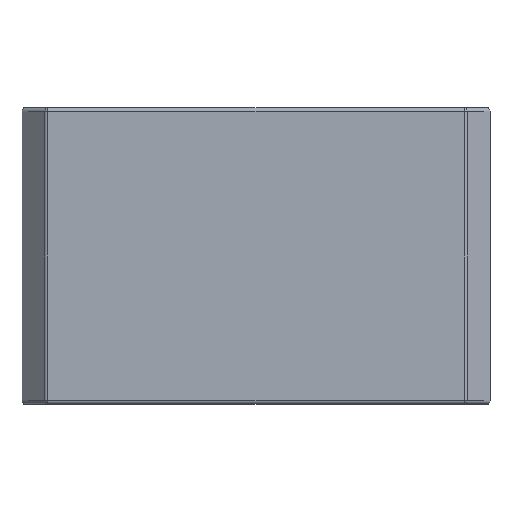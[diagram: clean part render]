
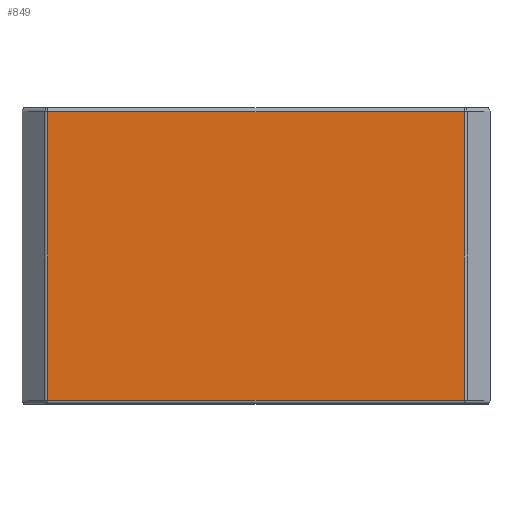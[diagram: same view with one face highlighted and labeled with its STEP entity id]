
A CAD part, front view. The second image highlights one B-rep face of the part: STEP entity #849.
In plain terms, the highlighted planar face has unit normal (0, -1, 0).
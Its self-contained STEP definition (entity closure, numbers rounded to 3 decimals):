
#2 = DIRECTION ( 'NONE',  ( -1., 0., 0. ) ) ;
#118 = DIRECTION ( 'NONE',  ( 0., 0., 1. ) ) ;
#147 = VERTEX_POINT ( 'NONE', #2136 ) ;
#235 = DIRECTION ( 'NONE',  ( 1., 0., 0. ) ) ;
#316 = EDGE_CURVE ( 'NONE', #1788, #147, #936, .T. ) ;
#390 = CARTESIAN_POINT ( 'NONE',  ( 56.913, 1.793, 74. ) ) ;
#595 = ORIENTED_EDGE ( 'NONE', *, *, #1159, .T. ) ;
#699 = VECTOR ( 'NONE', #1815, 1000. ) ;
#722 = LINE ( 'NONE', #1463, #699 ) ;
#849 = ADVANCED_FACE ( 'NONE', ( #1826 ), #1649, .F. ) ;
#863 = EDGE_CURVE ( 'NONE', #1921, #1788, #722, .T. ) ;
#936 = LINE ( 'NONE', #1315, #1042 ) ;
#978 = CARTESIAN_POINT ( 'NONE',  ( -43.572, 1.793, 1. ) ) ;
#1042 = VECTOR ( 'NONE', #235, 1000. ) ;
#1159 = EDGE_CURVE ( 'NONE', #147, #2350, #1193, .T. ) ;
#1193 = LINE ( 'NONE', #1217, #1802 ) ;
#1217 = CARTESIAN_POINT ( 'NONE',  ( 60.399, 1.793, 74. ) ) ;
#1236 = LINE ( 'NONE', #2107, #2235 ) ;
#1265 = CARTESIAN_POINT ( 'NONE',  ( -43.572, 1.793, 73. ) ) ;
#1315 = CARTESIAN_POINT ( 'NONE',  ( 56.913, 1.793, 1. ) ) ;
#1338 = ORIENTED_EDGE ( 'NONE', *, *, #1437, .T. ) ;
#1411 = CARTESIAN_POINT ( 'NONE',  ( 60.399, 1.793, 73. ) ) ;
#1437 = EDGE_CURVE ( 'NONE', #2350, #1921, #1236, .T. ) ;
#1439 = DIRECTION ( 'NONE',  ( 0., 1., 0. ) ) ;
#1462 = AXIS2_PLACEMENT_3D ( 'NONE', #390, #1439, #2 ) ;
#1463 = CARTESIAN_POINT ( 'NONE',  ( -43.572, 1.793, 74. ) ) ;
#1649 = PLANE ( 'NONE',  #1462 ) ;
#1698 = ORIENTED_EDGE ( 'NONE', *, *, #316, .T. ) ;
#1788 = VERTEX_POINT ( 'NONE', #978 ) ;
#1802 = VECTOR ( 'NONE', #118, 1000. ) ;
#1815 = DIRECTION ( 'NONE',  ( 0., 0., -1. ) ) ;
#1826 = FACE_OUTER_BOUND ( 'NONE', #2220, .T. ) ;
#1853 = ORIENTED_EDGE ( 'NONE', *, *, #863, .T. ) ;
#1921 = VERTEX_POINT ( 'NONE', #1265 ) ;
#1923 = DIRECTION ( 'NONE',  ( -1., 0., 0. ) ) ;
#2107 = CARTESIAN_POINT ( 'NONE',  ( -43.572, 1.793, 73. ) ) ;
#2136 = CARTESIAN_POINT ( 'NONE',  ( 60.399, 1.793, 1. ) ) ;
#2220 = EDGE_LOOP ( 'NONE', ( #595, #1338, #1853, #1698 ) ) ;
#2235 = VECTOR ( 'NONE', #1923, 1000. ) ;
#2350 = VERTEX_POINT ( 'NONE', #1411 ) ;
